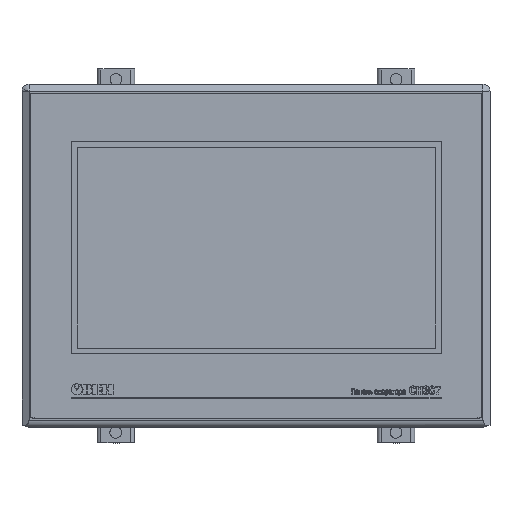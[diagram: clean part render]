
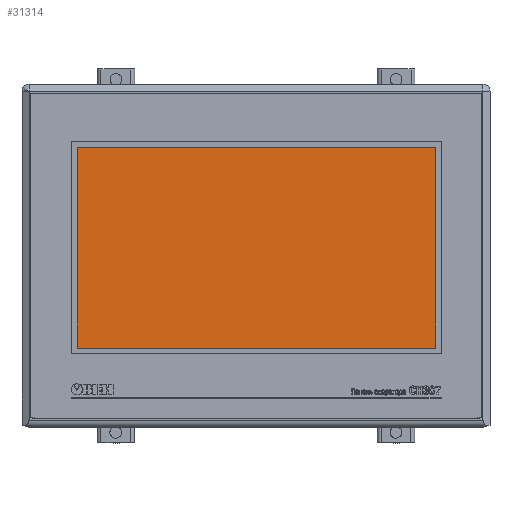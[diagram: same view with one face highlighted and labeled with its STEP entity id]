
A CAD part, top view. The second image highlights one B-rep face of the part: STEP entity #31314.
In plain terms, the highlighted planar face has unit normal (0, 0, 1).
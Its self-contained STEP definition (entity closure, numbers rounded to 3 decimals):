
#514 = CARTESIAN_POINT ( 'NONE',  ( 173.5, 116., 0.45 ) ) ;
#1228 = DIRECTION ( 'NONE',  ( -1., 0., 0. ) ) ;
#7670 = CARTESIAN_POINT ( 'NONE',  ( 0., 0., 0.45 ) ) ;
#7885 = CARTESIAN_POINT ( 'NONE',  ( 20., 116., 0.45 ) ) ;
#8418 = VECTOR ( 'NONE', #1228, 1000. ) ;
#9015 = VECTOR ( 'NONE', #32924, 1000. ) ;
#10562 = CARTESIAN_POINT ( 'NONE',  ( 20., 30., 0.45 ) ) ;
#10571 = VERTEX_POINT ( 'NONE', #514 ) ;
#11096 = PLANE ( 'NONE',  #27129 ) ;
#11247 = DIRECTION ( 'NONE',  ( 1., 0., 0. ) ) ;
#12850 = EDGE_LOOP ( 'NONE', ( #20152, #38161, #23644, #13446 ) ) ;
#12977 = VERTEX_POINT ( 'NONE', #19558 ) ;
#13446 = ORIENTED_EDGE ( 'NONE', *, *, #30655, .T. ) ;
#17480 = CARTESIAN_POINT ( 'NONE',  ( 173.5, 116., 0.45 ) ) ;
#18409 = LINE ( 'NONE', #7885, #9015 ) ;
#19558 = CARTESIAN_POINT ( 'NONE',  ( 173.5, 30., 0.45 ) ) ;
#20152 = ORIENTED_EDGE ( 'NONE', *, *, #25463, .T. ) ;
#22664 = LINE ( 'NONE', #17480, #40411 ) ;
#22785 = FACE_OUTER_BOUND ( 'NONE', #12850, .T. ) ;
#23245 = CARTESIAN_POINT ( 'NONE',  ( 20., 116., 0.45 ) ) ;
#23644 = ORIENTED_EDGE ( 'NONE', *, *, #32094, .T. ) ;
#24028 = EDGE_CURVE ( 'NONE', #24587, #12977, #34120, .T. ) ;
#24133 = CARTESIAN_POINT ( 'NONE',  ( 20., 30., 0.45 ) ) ;
#24587 = VERTEX_POINT ( 'NONE', #24133 ) ;
#25463 = EDGE_CURVE ( 'NONE', #37054, #24587, #18409, .T. ) ;
#26047 = CARTESIAN_POINT ( 'NONE',  ( 20., 116., 0.45 ) ) ;
#27129 = AXIS2_PLACEMENT_3D ( 'NONE', #7670, #32444, #11247 ) ;
#30655 = EDGE_CURVE ( 'NONE', #10571, #37054, #44983, .T. ) ;
#31314 = ADVANCED_FACE ( 'NONE', ( #22785 ), #11096, .T. ) ;
#31764 = DIRECTION ( 'NONE',  ( 1., 0., 0. ) ) ;
#32094 = EDGE_CURVE ( 'NONE', #12977, #10571, #22664, .T. ) ;
#32444 = DIRECTION ( 'NONE',  ( 0., 0., 1. ) ) ;
#32924 = DIRECTION ( 'NONE',  ( 0., -1., 0. ) ) ;
#34120 = LINE ( 'NONE', #10562, #42461 ) ;
#37054 = VERTEX_POINT ( 'NONE', #23245 ) ;
#38161 = ORIENTED_EDGE ( 'NONE', *, *, #24028, .T. ) ;
#40411 = VECTOR ( 'NONE', #45837, 1000. ) ;
#42461 = VECTOR ( 'NONE', #31764, 1000. ) ;
#44983 = LINE ( 'NONE', #26047, #8418 ) ;
#45837 = DIRECTION ( 'NONE',  ( 0., 1., 0. ) ) ;
